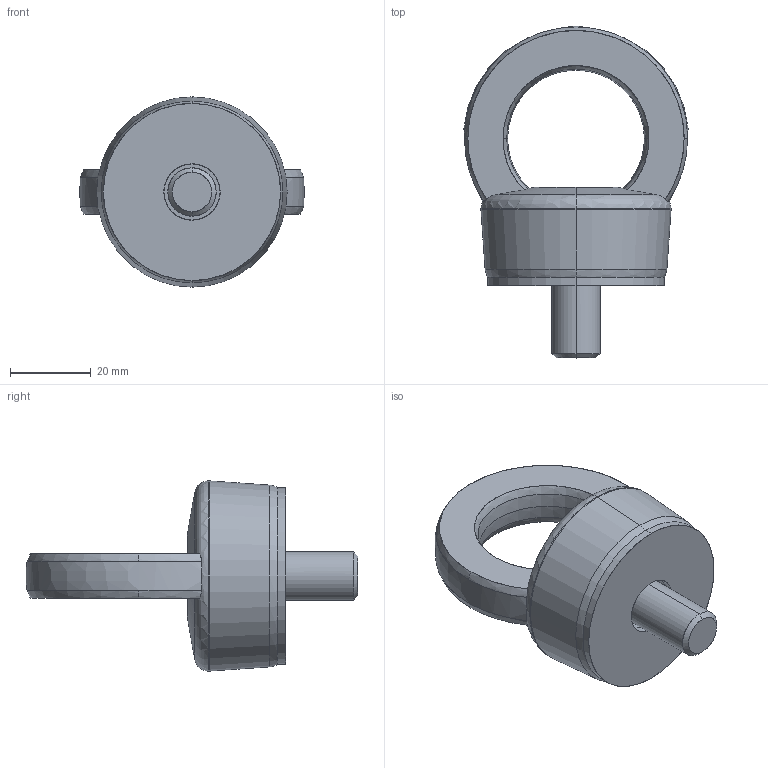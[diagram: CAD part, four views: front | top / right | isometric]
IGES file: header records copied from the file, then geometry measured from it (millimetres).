
Start section: START RECORD GO HERE.
Global section: file name: C817X12.igs; native system: DASSAULT SYSTEMES CATIA V5 R20 - www.3ds.com; preprocessor: CATIA Version 5 Release 20 ; author: r.borello; organization: CFTORINO; date: 20190701.090058; units: millimetre
Bounding box: 55.69 x 82.47 x 47.25 mm (x, y, z)
Surface area: 13195.6 mm2 (no closed solid volume)
Topology: 0 solids, 0 shells, 61 faces, 356 edges, 356 vertices
Faces by surface type: revolution 44, plane 15, bspline 2
